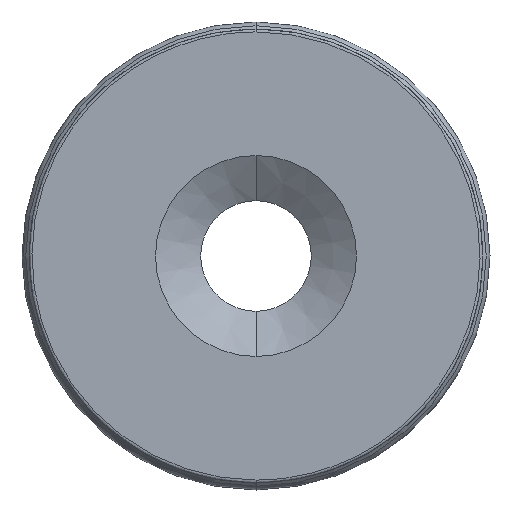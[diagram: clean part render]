
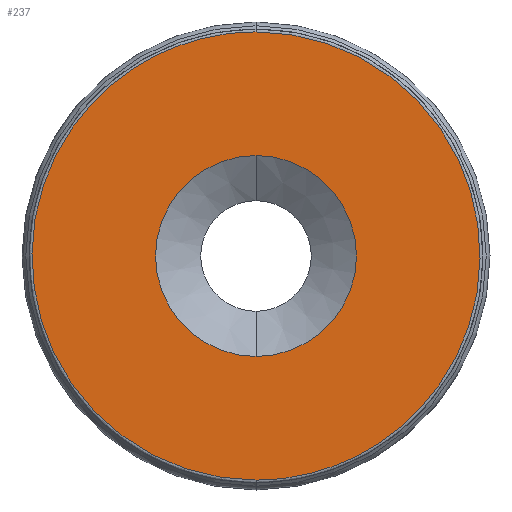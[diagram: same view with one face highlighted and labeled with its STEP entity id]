
A CAD part, front view. The second image highlights one B-rep face of the part: STEP entity #237.
In plain terms, the highlighted planar face has unit normal (0, -1, 0).
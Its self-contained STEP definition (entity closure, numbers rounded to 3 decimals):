
#8 = EDGE_CURVE ( 'NONE', #840, #839, #695, .T. ) ;
#68 = EDGE_CURVE ( 'NONE', #811, #829, #421, .T. ) ;
#71 = EDGE_CURVE ( 'NONE', #829, #811, #423, .T. ) ;
#72 = EDGE_CURVE ( 'NONE', #839, #840, #696, .T. ) ;
#173 = CARTESIAN_POINT ( 'NONE',  ( 0., 0., 0. ) ) ;
#183 = CARTESIAN_POINT ( 'NONE',  ( 0., 0., 0. ) ) ;
#184 = DIRECTION ( 'NONE',  ( 0., 1., 0. ) ) ;
#185 = DIRECTION ( 'NONE',  ( 0., 0., 1. ) ) ;
#190 = CARTESIAN_POINT ( 'NONE',  ( 0., 0., 7.9 ) ) ;
#191 = DIRECTION ( 'NONE',  ( 0., 1., 0. ) ) ;
#192 = DIRECTION ( 'NONE',  ( 0., 0., 1. ) ) ;
#195 = CARTESIAN_POINT ( 'NONE',  ( 15.8, 0., 7.9 ) ) ;
#196 = CARTESIAN_POINT ( 'NONE',  ( 15.8, 0., -7.9 ) ) ;
#197 = CARTESIAN_POINT ( 'NONE',  ( 0., 0., -7.9 ) ) ;
#237 = ADVANCED_FACE ( 'NONE', ( #443, #450 ), #1006, .T. ) ;
#283 = EDGE_LOOP ( 'NONE', ( #948, #947 ) ) ;
#287 = EDGE_LOOP ( 'NONE', ( #942, #949 ) ) ;
#421 = CIRCLE ( 'NONE', #880, 3.542 ) ;
#423 = CIRCLE ( 'NONE', #888, 3.542 ) ;
#443 = FACE_BOUND ( 'NONE', #287, .T. ) ;
#450 = FACE_OUTER_BOUND ( 'NONE', #283, .T. ) ;
#628 = CARTESIAN_POINT ( 'NONE',  ( 0., 0., -3.542 ) ) ;
#650 = CARTESIAN_POINT ( 'NONE',  ( 0., 0., 3.542 ) ) ;
#660 = CARTESIAN_POINT ( 'NONE',  ( 0., 0., 7.9 ) ) ;
#661 = CARTESIAN_POINT ( 'NONE',  ( 0., 0., -7.9 ) ) ;
#695 =( BOUNDED_CURVE ( )  B_SPLINE_CURVE ( 3, ( #848, #795, #794, #791 ),
 .UNSPECIFIED., .F., .F. ) 
 B_SPLINE_CURVE_WITH_KNOTS ( ( 4, 4 ),
 ( 0.75, 1.25 ),
 .UNSPECIFIED. ) 
 CURVE ( )  GEOMETRIC_REPRESENTATION_ITEM ( )  RATIONAL_B_SPLINE_CURVE ( ( 1., 0.333, 0.333, 1. ) ) 
 REPRESENTATION_ITEM ( '' )  );
#696 =( BOUNDED_CURVE ( )  B_SPLINE_CURVE ( 3, ( #190, #195, #196, #197 ),
 .UNSPECIFIED., .F., .T. ) 
 B_SPLINE_CURVE_WITH_KNOTS ( ( 4, 4 ),
 ( 0.25, 0.75 ),
 .UNSPECIFIED. ) 
 CURVE ( )  GEOMETRIC_REPRESENTATION_ITEM ( )  RATIONAL_B_SPLINE_CURVE ( ( 1., 0.333, 0.333, 1. ) ) 
 REPRESENTATION_ITEM ( '' )  );
#791 = CARTESIAN_POINT ( 'NONE',  ( 0., 0., 7.9 ) ) ;
#794 = CARTESIAN_POINT ( 'NONE',  ( -15.8, 0., 7.9 ) ) ;
#795 = CARTESIAN_POINT ( 'NONE',  ( -15.8, 0., -7.9 ) ) ;
#811 = VERTEX_POINT ( 'NONE', #628 ) ;
#829 = VERTEX_POINT ( 'NONE', #650 ) ;
#839 = VERTEX_POINT ( 'NONE', #660 ) ;
#840 = VERTEX_POINT ( 'NONE', #661 ) ;
#848 = CARTESIAN_POINT ( 'NONE',  ( 0., 0., -7.9 ) ) ;
#880 = AXIS2_PLACEMENT_3D ( 'NONE', #173, #184, #185 ) ;
#888 = AXIS2_PLACEMENT_3D ( 'NONE', #183, #191, #192 ) ;
#925 = AXIS2_PLACEMENT_3D ( 'NONE', #1007, #1004, #1003 ) ;
#942 = ORIENTED_EDGE ( 'NONE', *, *, #71, .T. ) ;
#947 = ORIENTED_EDGE ( 'NONE', *, *, #8, .F. ) ;
#948 = ORIENTED_EDGE ( 'NONE', *, *, #72, .F. ) ;
#949 = ORIENTED_EDGE ( 'NONE', *, *, #68, .T. ) ;
#1003 = DIRECTION ( 'NONE',  ( 0., 0., -1. ) ) ;
#1004 = DIRECTION ( 'NONE',  ( 0., -1., 0. ) ) ;
#1006 = PLANE ( 'NONE',  #925 ) ;
#1007 = CARTESIAN_POINT ( 'NONE',  ( -5.721, 0., 0. ) ) ;
